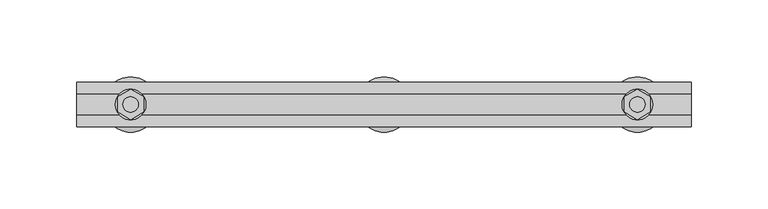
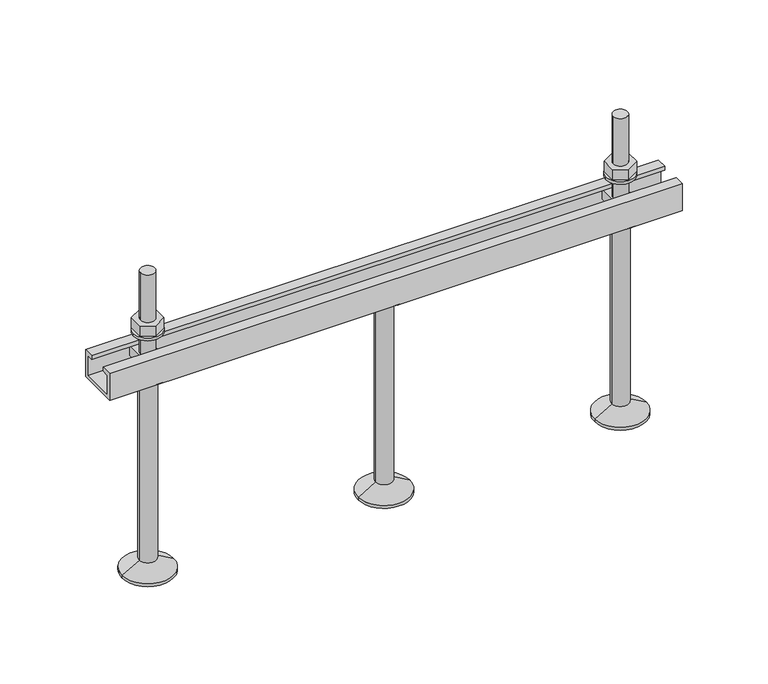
"""IFC4 building model written with IfcOpenShell, lengths in millimetres: fastener geometry, JXA(-PC) JORDAHL® toothed channels : JXA(-PC) L=400 mm."""

from ifc_helpers import new_model, si_unit, point, frame, frame_2d, origin, place, context, project, spatial, polyline, circle_curve, trimmed, segment, composite_curve, outline, extrude, source, transform, mapped, element, save
from ifc_brep_helpers import plane_surface, cylinder_surface, revolved_surface, advanced_brep


def fastener_b79830a4(model_context):
    return source(origin(), model_context, "Body", "SolidModel", [
        advanced_brep(
        [(200.0, 0.0, -20.0), (214.5, 0.0, -20.0), (185.5, 0.0, -20.0), (182.0, 0.0, -166.0), (218.0, 0.0, -166.0), (200.0, 0.0, -166.0), (182.0, 0.0, -164.0), (218.0, 0.0, -164.0), (194.0, 0.0, -157.0717968), (206.0, 0.0, -157.0717968), (194.0, 0.0, -22.5), (206.0, 0.0, -22.5)],
        [
            (0, 1),
            (1, 2, circle_curve(frame((200.0, 0.0, -20.0), z_axis=(0.0, 0.0, 1.0), x_axis=(1.0, 0.0, 0.0)), 14.5)),
            (2, 0),
            (2, 1, circle_curve(frame((200.0, 0.0, -20.0), z_axis=(0.0, 0.0, 1.0), x_axis=(1.0, 0.0, 0.0)), 14.5)),
            (3, 4, circle_curve(frame((200.0, 0.0, -166.0), z_axis=(0.0, 0.0, -1.0), x_axis=(1.0, 0.0, 0.0)), 18.0)),
            (4, 5),
            (5, 3),
            (4, 3, circle_curve(frame((200.0, 0.0, -166.0), z_axis=(0.0, 0.0, -1.0), x_axis=(1.0, 0.0, 0.0)), 18.0)),
            (6, 7, circle_curve(frame((200.0, 0.0, -164.0), z_axis=(0.0, 0.0, -1.0), x_axis=(1.0, 0.0, 0.0)), 18.0)),
            (7, 4),
            (3, 6),
            (7, 6, circle_curve(frame((200.0, 0.0, -164.0), z_axis=(0.0, 0.0, -1.0), x_axis=(1.0, 0.0, 0.0)), 18.0)),
            (8, 9, circle_curve(frame((200.0, 0.0, -157.0717968), z_axis=(0.0, 0.0, -1.0), x_axis=(1.0, 0.0, 0.0)), 6.0)),
            (9, 7),
            (6, 8),
            (9, 8, circle_curve(frame((200.0, 0.0, -157.0717968), z_axis=(0.0, 0.0, -1.0), x_axis=(1.0, 0.0, 0.0)), 6.0)),
            (10, 11, circle_curve(frame((200.0, 0.0, -22.5), z_axis=(0.0, 0.0, -1.0), x_axis=(1.0, 0.0, 0.0)), 6.0)),
            (11, 9),
            (8, 10),
            (11, 10, circle_curve(frame((200.0, 0.0, -22.5), z_axis=(0.0, 0.0, -1.0), x_axis=(1.0, 0.0, 0.0)), 6.0)),
            (1, 11),
            (10, 2),
        ],
        [
            plane_surface(frame((200.0, 0.0, -20.0), z_axis=(0.0, 0.0, 1.0), x_axis=(1.0, 0.0, 0.0))),
            plane_surface(frame((200.0, 0.0, -166.0), z_axis=(0.0, 0.0, -1.0), x_axis=(1.0, 0.0, 0.0))),
            cylinder_surface(frame((200.0, 0.0, 2214.3150031), z_axis=(0.0, 0.0, 1.0), x_axis=(1.0, 0.0, 0.0)), 18.0),
            revolved_surface(polyline([(218.0, 0.0, -164.0), (206.0, 0.0, -157.0717968)]), (200.0, 0.0, 2214.3150031), (0.0, 0.0, 1.0)),
            cylinder_surface(frame((200.0, 0.0, 2214.3150031), z_axis=(0.0, 0.0, 1.0), x_axis=(1.0, 0.0, 0.0)), 6.0),
            revolved_surface(polyline([(206.0, 0.0, -22.5), (214.5, 0.0, -20.0)]), (200.0, 0.0, 2214.3150031), (0.0, 0.0, 1.0)),
        ],
        [
            (0, [[1, 2, 3]]),
            (0, [[-3, 4, -1]]),
            (1, [[5, 6, 7]]),
            (1, [[8, -7, -6]]),
            (2, [[9, 10, -5, 11]]),
            (2, [[12, -11, -8, -10]]),
            (3, [[13, 14, -9, 15]]),
            (3, [[16, -15, -12, -14]]),
            (4, [[17, 18, -13, 19]]),
            (4, [[20, -19, -16, -18]]),
            (5, [[-2, 21, -17, 22]]),
            (5, [[-4, -22, -20, -21]]),
        ],
    ),
        extrude(outline(composite_curve([segment(trimmed(circle_curve(frame_2d((365.0, 0.0)), 10.0), [point((355.0, 0.0))], [point((375.0, 0.0))], False, "CARTESIAN"), True, "CONTINUOUS"), segment(trimmed(circle_curve(frame_2d((365.0, 0.0)), 10.0), [point((375.0, 0.0))], [point((355.0, 0.0))], False, "CARTESIAN"), True, "CONTINUOUS")], self_intersect=False), holes=[composite_curve([segment(trimmed(circle_curve(frame_2d((365.0, 0.0)), 5.5), [point((359.5, 0.0))], [point((370.5, 0.0))], True, "CARTESIAN"), True, "CONTINUOUS"), segment(trimmed(circle_curve(frame_2d((365.0, 0.0)), 5.5), [point((370.5, 0.0))], [point((359.5, 0.0))], True, "CARTESIAN"), True, "CONTINUOUS")], self_intersect=False)]), frame((0.0, 0.0, 10.0), z_axis=(0.0, 0.0, 1.0), x_axis=(1.0, 0.0, 0.0)), (0.0, 0.0, 1.0), 2.0),
        extrude(outline(polyline([(365.0, 9.8149546), (373.5, 4.9074773), (373.5, -4.9074773), (365.0, -9.8149546), (356.5, -4.9074773), (356.5, 4.9074773), (365.0, 9.8149546)]), holes=[composite_curve([segment(trimmed(circle_curve(frame_2d((365.0, 0.0)), 5.0), [point((360.0, 0.0))], [point((370.0, 0.0))], True, "CARTESIAN"), True, "CONTINUOUS"), segment(trimmed(circle_curve(frame_2d((365.0, 0.0)), 5.0), [point((370.0, 0.0))], [point((360.0, 0.0))], True, "CARTESIAN"), True, "CONTINUOUS")], self_intersect=False)]), frame((0.0, 0.0, 12.0), z_axis=(0.0, 0.0, 1.0), x_axis=(1.0, 0.0, 0.0)), (0.0, 0.0, 1.0), 8.0),
        advanced_brep(
        [(371.5, 10.5, -5.0), (371.5, -10.5, -5.0), (371.5, -10.5, -12.0), (371.5, 10.5, -12.0), (358.5, 10.5, -5.0), (358.5, 10.5, -12.0), (358.5, -10.5, -12.0), (358.5, -10.5, -5.0), (370.0, 0.0, -5.0), (360.0, 0.0, -5.0), (360.0, 0.0, 55.0), (370.0, 0.0, 55.0)],
        [
            (0, 1),
            (1, 2),
            (2, 3),
            (3, 0),
            (4, 5),
            (5, 6),
            (6, 7),
            (7, 4),
            (0, 4),
            (7, 1),
            (8, 9, circle_curve(frame((365.0, 0.0, -5.0), z_axis=(0.0, 0.0, -1.0), x_axis=(1.0, 0.0, 0.0)), 5.0)),
            (9, 8, circle_curve(frame((365.0, 0.0, -5.0), z_axis=(0.0, 0.0, -1.0), x_axis=(1.0, 0.0, 0.0)), 5.0)),
            (6, 2),
            (5, 3),
            (10, 11, circle_curve(frame((365.0, 0.0, 55.0), z_axis=(0.0, 0.0, 1.0), x_axis=(1.0, 0.0, 0.0)), 5.0)),
            (11, 10, circle_curve(frame((365.0, 0.0, 55.0), z_axis=(0.0, 0.0, 1.0), x_axis=(1.0, 0.0, 0.0)), 5.0)),
            (10, 9),
            (8, 11),
        ],
        [
            plane_surface(frame((371.5, -10.5, -5.0), z_axis=(1.0, 0.0, 0.0), x_axis=(0.0, -1.0, 0.0))),
            plane_surface(frame((358.5, -10.5, -5.0), z_axis=(-1.0, 0.0, 0.0), x_axis=(0.0, 1.0, 0.0))),
            plane_surface(frame((371.5, 10.5, -5.0), z_axis=(0.0, 0.0, 1.0), x_axis=(-1.0, 0.0, 0.0))),
            plane_surface(frame((371.5, -10.5, -5.0), z_axis=(0.0, -1.0, 0.0), x_axis=(-1.0, 0.0, 0.0))),
            plane_surface(frame((371.5, -10.5, -12.0), z_axis=(0.0, 0.0, -1.0), x_axis=(-1.0, 0.0, 0.0))),
            plane_surface(frame((371.5, 10.5, -12.0), z_axis=(0.0, 1.0, 0.0), x_axis=(-1.0, 0.0, 0.0))),
            plane_surface(frame((370.0, 0.0, 55.0), z_axis=(0.0, 0.0, 1.0), x_axis=(0.0, 1.0, 0.0))),
            cylinder_surface(frame((365.0, 0.0, -5.0), z_axis=(0.0, 0.0, 1.0), x_axis=(1.0, 0.0, 0.0)), 5.0),
        ],
        [
            (0, [[1, 2, 3, 4]]),
            (1, [[5, 6, 7, 8]]),
            (2, [[-1, 9, -8, 10], [11, 12]]),
            (3, [[-2, -10, -7, 13]]),
            (4, [[-3, -13, -6, 14]]),
            (5, [[-4, -14, -5, -9]]),
            (6, [[15, 16]]),
            (7, [[-15, 17, -11, 18]]),
            (7, [[-16, -18, -12, -17]]),
        ],
    ),
        extrude(outline(composite_curve([segment(trimmed(circle_curve(frame_2d((35.0, 0.0)), 10.0), [point((25.0, 0.0))], [point((45.0, 0.0))], False, "CARTESIAN"), True, "CONTINUOUS"), segment(trimmed(circle_curve(frame_2d((35.0, 0.0)), 10.0), [point((45.0, 0.0))], [point((25.0, 0.0))], False, "CARTESIAN"), True, "CONTINUOUS")], self_intersect=False), holes=[composite_curve([segment(trimmed(circle_curve(frame_2d((35.0, 0.0)), 5.5), [point((29.5, 0.0))], [point((40.5, 0.0))], True, "CARTESIAN"), True, "CONTINUOUS"), segment(trimmed(circle_curve(frame_2d((35.0, 0.0)), 5.5), [point((40.5, 0.0))], [point((29.5, 0.0))], True, "CARTESIAN"), True, "CONTINUOUS")], self_intersect=False)]), frame((0.0, 0.0, 10.0), z_axis=(0.0, 0.0, 1.0), x_axis=(1.0, 0.0, 0.0)), (0.0, 0.0, 1.0), 2.0),
        extrude(outline(polyline([(35.0, 9.8149546), (43.5, 4.9074773), (43.5, -4.9074773), (35.0, -9.8149546), (26.5, -4.9074773), (26.5, 4.9074773), (35.0, 9.8149546)]), holes=[composite_curve([segment(trimmed(circle_curve(frame_2d((35.0, 0.0)), 5.0), [point((30.0, 0.0))], [point((40.0, 0.0))], True, "CARTESIAN"), True, "CONTINUOUS"), segment(trimmed(circle_curve(frame_2d((35.0, 0.0)), 5.0), [point((40.0, 0.0))], [point((30.0, 0.0))], True, "CARTESIAN"), True, "CONTINUOUS")], self_intersect=False)]), frame((0.0, 0.0, 12.0), z_axis=(0.0, 0.0, 1.0), x_axis=(1.0, 0.0, 0.0)), (0.0, 0.0, 1.0), 8.0),
        advanced_brep(
        [(41.5, 10.5, -5.0), (41.5, -10.5, -5.0), (41.5, -10.5, -12.0), (41.5, 10.5, -12.0), (28.5, 10.5, -5.0), (28.5, 10.5, -12.0), (28.5, -10.5, -12.0), (28.5, -10.5, -5.0), (40.0, 0.0, -5.0), (30.0, 0.0, -5.0), (30.0, 0.0, 55.0), (40.0, 0.0, 55.0)],
        [
            (0, 1),
            (1, 2),
            (2, 3),
            (3, 0),
            (4, 5),
            (5, 6),
            (6, 7),
            (7, 4),
            (0, 4),
            (7, 1),
            (8, 9, circle_curve(frame((35.0, 0.0, -5.0), z_axis=(0.0, 0.0, -1.0), x_axis=(1.0, 0.0, 0.0)), 5.0)),
            (9, 8, circle_curve(frame((35.0, 0.0, -5.0), z_axis=(0.0, 0.0, -1.0), x_axis=(1.0, 0.0, 0.0)), 5.0)),
            (6, 2),
            (5, 3),
            (10, 11, circle_curve(frame((35.0, 0.0, 55.0), z_axis=(0.0, 0.0, 1.0), x_axis=(1.0, 0.0, 0.0)), 5.0)),
            (11, 10, circle_curve(frame((35.0, 0.0, 55.0), z_axis=(0.0, 0.0, 1.0), x_axis=(1.0, 0.0, 0.0)), 5.0)),
            (10, 9),
            (8, 11),
        ],
        [
            plane_surface(frame((41.5, -10.5, -5.0), z_axis=(1.0, 0.0, 0.0), x_axis=(0.0, -1.0, 0.0))),
            plane_surface(frame((28.5, -10.5, -5.0), z_axis=(-1.0, 0.0, 0.0), x_axis=(0.0, 1.0, 0.0))),
            plane_surface(frame((41.5, 10.5, -5.0), z_axis=(0.0, 0.0, 1.0), x_axis=(-1.0, 0.0, 0.0))),
            plane_surface(frame((41.5, -10.5, -5.0), z_axis=(0.0, -1.0, 0.0), x_axis=(-1.0, 0.0, 0.0))),
            plane_surface(frame((41.5, -10.5, -12.0), z_axis=(0.0, 0.0, -1.0), x_axis=(-1.0, 0.0, 0.0))),
            plane_surface(frame((41.5, 10.5, -12.0), z_axis=(0.0, 1.0, 0.0), x_axis=(-1.0, 0.0, 0.0))),
            plane_surface(frame((40.0, 0.0, 55.0), z_axis=(0.0, 0.0, 1.0), x_axis=(0.0, 1.0, 0.0))),
            cylinder_surface(frame((35.0, 0.0, -5.0), z_axis=(0.0, 0.0, 1.0), x_axis=(1.0, 0.0, 0.0)), 5.0),
        ],
        [
            (0, [[1, 2, 3, 4]]),
            (1, [[5, 6, 7, 8]]),
            (2, [[-1, 9, -8, 10], [11, 12]]),
            (3, [[-2, -10, -7, 13]]),
            (4, [[-3, -13, -6, 14]]),
            (5, [[-4, -14, -5, -9]]),
            (6, [[15, 16]]),
            (7, [[-15, 17, -11, 18]]),
            (7, [[-16, -18, -12, -17]]),
        ],
    ),
        advanced_brep(
        [(365.0, 0.0, -20.0), (379.5, 0.0, -20.0), (350.5, 0.0, -20.0), (347.0, 0.0, -166.0), (383.0, 0.0, -166.0), (365.0, 0.0, -166.0), (347.0, 0.0, -164.0), (383.0, 0.0, -164.0), (359.0, 0.0, -157.0717968), (371.0, 0.0, -157.0717968), (359.0, 0.0, -22.5), (371.0, 0.0, -22.5)],
        [
            (0, 1),
            (1, 2, circle_curve(frame((365.0, 0.0, -20.0), z_axis=(0.0, 0.0, 1.0), x_axis=(1.0, 0.0, 0.0)), 14.5)),
            (2, 0),
            (2, 1, circle_curve(frame((365.0, 0.0, -20.0), z_axis=(0.0, 0.0, 1.0), x_axis=(1.0, 0.0, 0.0)), 14.5)),
            (3, 4, circle_curve(frame((365.0, 0.0, -166.0), z_axis=(0.0, 0.0, -1.0), x_axis=(1.0, 0.0, 0.0)), 18.0)),
            (4, 5),
            (5, 3),
            (4, 3, circle_curve(frame((365.0, 0.0, -166.0), z_axis=(0.0, 0.0, -1.0), x_axis=(1.0, 0.0, 0.0)), 18.0)),
            (6, 7, circle_curve(frame((365.0, 0.0, -164.0), z_axis=(0.0, 0.0, -1.0), x_axis=(1.0, 0.0, 0.0)), 18.0)),
            (7, 4),
            (3, 6),
            (7, 6, circle_curve(frame((365.0, 0.0, -164.0), z_axis=(0.0, 0.0, -1.0), x_axis=(1.0, 0.0, 0.0)), 18.0)),
            (8, 9, circle_curve(frame((365.0, 0.0, -157.0717968), z_axis=(0.0, 0.0, -1.0), x_axis=(1.0, 0.0, 0.0)), 6.0)),
            (9, 7),
            (6, 8),
            (9, 8, circle_curve(frame((365.0, 0.0, -157.0717968), z_axis=(0.0, 0.0, -1.0), x_axis=(1.0, 0.0, 0.0)), 6.0)),
            (10, 11, circle_curve(frame((365.0, 0.0, -22.5), z_axis=(0.0, 0.0, -1.0), x_axis=(1.0, 0.0, 0.0)), 6.0)),
            (11, 9),
            (8, 10),
            (11, 10, circle_curve(frame((365.0, 0.0, -22.5), z_axis=(0.0, 0.0, -1.0), x_axis=(1.0, 0.0, 0.0)), 6.0)),
            (1, 11),
            (10, 2),
        ],
        [
            plane_surface(frame((365.0, 0.0, -20.0), z_axis=(0.0, 0.0, 1.0), x_axis=(1.0, 0.0, 0.0))),
            plane_surface(frame((365.0, 0.0, -166.0), z_axis=(0.0, 0.0, -1.0), x_axis=(1.0, 0.0, 0.0))),
            cylinder_surface(frame((365.0, 0.0, 2214.3150031), z_axis=(0.0, 0.0, 1.0), x_axis=(1.0, 0.0, 0.0)), 18.0),
            revolved_surface(polyline([(383.0, 0.0, -164.0), (371.0, 0.0, -157.0717968)]), (365.0, 0.0, 2214.3150031), (0.0, 0.0, 1.0)),
            cylinder_surface(frame((365.0, 0.0, 2214.3150031), z_axis=(0.0, 0.0, 1.0), x_axis=(1.0, 0.0, 0.0)), 6.0),
            revolved_surface(polyline([(371.0, 0.0, -22.5), (379.5, 0.0, -20.0)]), (365.0, 0.0, 2214.3150031), (0.0, 0.0, 1.0)),
        ],
        [
            (0, [[1, 2, 3]]),
            (0, [[-3, 4, -1]]),
            (1, [[5, 6, 7]]),
            (1, [[8, -7, -6]]),
            (2, [[9, 10, -5, 11]]),
            (2, [[12, -11, -8, -10]]),
            (3, [[13, 14, -9, 15]]),
            (3, [[16, -15, -12, -14]]),
            (4, [[17, 18, -13, 19]]),
            (4, [[20, -19, -16, -18]]),
            (5, [[-2, 21, -17, 22]]),
            (5, [[-4, -22, -20, -21]]),
        ],
    ),
        advanced_brep(
        [(35.0, 0.0, -20.0), (49.5, 0.0, -20.0), (20.5, 0.0, -20.0), (17.0, 0.0, -166.0), (53.0, 0.0, -166.0), (35.0, 0.0, -166.0), (17.0, 0.0, -164.0), (53.0, 0.0, -164.0), (29.0, 0.0, -157.0717968), (41.0, 0.0, -157.0717968), (29.0, 0.0, -22.5), (41.0, 0.0, -22.5)],
        [
            (0, 1),
            (1, 2, circle_curve(frame((35.0, 0.0, -20.0), z_axis=(0.0, 0.0, 1.0), x_axis=(1.0, 0.0, 0.0)), 14.5)),
            (2, 0),
            (2, 1, circle_curve(frame((35.0, 0.0, -20.0), z_axis=(0.0, 0.0, 1.0), x_axis=(1.0, 0.0, 0.0)), 14.5)),
            (3, 4, circle_curve(frame((35.0, 0.0, -166.0), z_axis=(0.0, 0.0, -1.0), x_axis=(1.0, 0.0, 0.0)), 18.0)),
            (4, 5),
            (5, 3),
            (4, 3, circle_curve(frame((35.0, 0.0, -166.0), z_axis=(0.0, 0.0, -1.0), x_axis=(1.0, 0.0, 0.0)), 18.0)),
            (6, 7, circle_curve(frame((35.0, 0.0, -164.0), z_axis=(0.0, 0.0, -1.0), x_axis=(1.0, 0.0, 0.0)), 18.0)),
            (7, 4),
            (3, 6),
            (7, 6, circle_curve(frame((35.0, 0.0, -164.0), z_axis=(0.0, 0.0, -1.0), x_axis=(1.0, 0.0, 0.0)), 18.0)),
            (8, 9, circle_curve(frame((35.0, 0.0, -157.0717968), z_axis=(0.0, 0.0, -1.0), x_axis=(1.0, 0.0, 0.0)), 6.0)),
            (9, 7),
            (6, 8),
            (9, 8, circle_curve(frame((35.0, 0.0, -157.0717968), z_axis=(0.0, 0.0, -1.0), x_axis=(1.0, 0.0, 0.0)), 6.0)),
            (10, 11, circle_curve(frame((35.0, 0.0, -22.5), z_axis=(0.0, 0.0, -1.0), x_axis=(1.0, 0.0, 0.0)), 6.0)),
            (11, 9),
            (8, 10),
            (11, 10, circle_curve(frame((35.0, 0.0, -22.5), z_axis=(0.0, 0.0, -1.0), x_axis=(1.0, 0.0, 0.0)), 6.0)),
            (1, 11),
            (10, 2),
        ],
        [
            plane_surface(frame((35.0, 0.0, -20.0), z_axis=(0.0, 0.0, 1.0), x_axis=(1.0, 0.0, 0.0))),
            plane_surface(frame((35.0, 0.0, -166.0), z_axis=(0.0, 0.0, -1.0), x_axis=(1.0, 0.0, 0.0))),
            cylinder_surface(frame((35.0, 0.0, 2214.3150031), z_axis=(0.0, 0.0, 1.0), x_axis=(1.0, 0.0, 0.0)), 18.0),
            revolved_surface(polyline([(53.0, 0.0, -164.0), (41.0, 0.0, -157.0717968)]), (35.0, 0.0, 2214.3150031), (0.0, 0.0, 1.0)),
            cylinder_surface(frame((35.0, 0.0, 2214.3150031), z_axis=(0.0, 0.0, 1.0), x_axis=(1.0, 0.0, 0.0)), 6.0),
            revolved_surface(polyline([(41.0, 0.0, -22.5), (49.5, 0.0, -20.0)]), (35.0, 0.0, 2214.3150031), (0.0, 0.0, 1.0)),
        ],
        [
            (0, [[1, 2, 3]]),
            (0, [[-3, 4, -1]]),
            (1, [[5, 6, 7]]),
            (1, [[8, -7, -6]]),
            (2, [[9, 10, -5, 11]]),
            (2, [[12, -11, -8, -10]]),
            (3, [[13, 14, -9, 15]]),
            (3, [[16, -15, -12, -14]]),
            (4, [[17, 18, -13, 19]]),
            (4, [[20, -19, -16, -18]]),
            (5, [[-2, 21, -17, 22]]),
            (5, [[-4, -22, -20, -21]]),
        ],
    ),
        extrude(outline(polyline([(14.5, 0.0), (14.5, -20.0), (-14.5, -20.0), (-14.5, 0.0), (-7.0, 0.0), (-7.0, -3.0), (-12.0, -3.0), (-12.0, -17.5), (12.0, -17.5), (12.0, -3.0), (7.0, -3.0), (7.0, 0.0), (14.5, 0.0)])), frame((0.0, 0.0, 0.0), z_axis=(1.0, 0.0, 0.0), x_axis=(0.0, 1.0, 0.0)), (0.0, 0.0, 1.0), 400.0),
    ])


if __name__ == "__main__":
    model = new_model("IFC4")
    model_context = context("Model", 3, world=origin())
    ifc_project = project(units=[si_unit("LENGTHUNIT", "METRE", prefix="MILLI")], contexts=[model_context])
    site = spatial("IfcSite", under=ifc_project)
    building = spatial("IfcBuilding", under=site)
    placement = place(None, origin())
    fastener_shape = fastener_b79830a4(model_context)
    element("IfcFastener", 1, ObjectType="JXA(-PC) JORDAHL® toothed channels : JXA(-PC) L=400 mm", at=placement, inside=building, context=model_context, shape_type="MappedRepresentation", body=[
        mapped(fastener_shape, transform((0.0, 0.0, 0.0), x_axis=(1.0, 0.0, 0.0), y_axis=(0.0, 1.0, 0.0), z_axis=(0.0, 0.0, 1.0))),
    ])
    save(model, "model.ifc")
